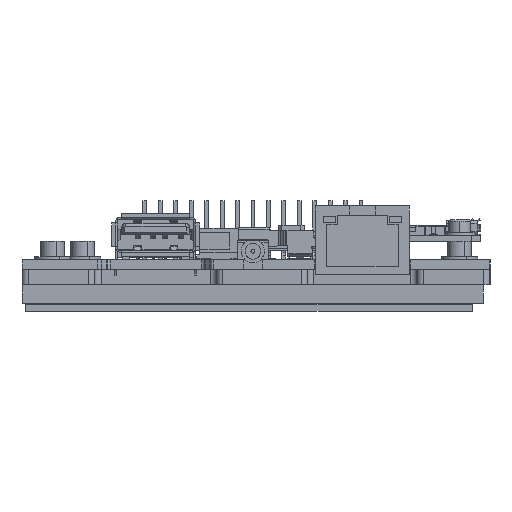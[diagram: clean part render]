
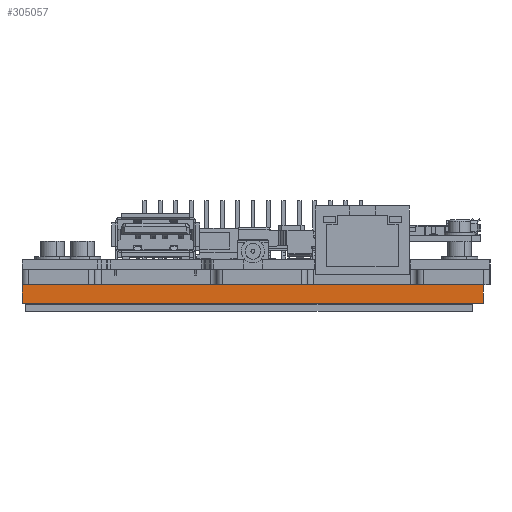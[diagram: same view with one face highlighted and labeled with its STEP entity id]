
A CAD part, left-side view. The second image highlights one B-rep face of the part: STEP entity #305057.
In plain terms, the highlighted planar face has unit normal (-1, 0, 0) as drawn and (1, 0, 0) by its records, which use the part's own axes.
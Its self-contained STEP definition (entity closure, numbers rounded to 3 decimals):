
#12948 = DIRECTION ( 'NONE',  ( -1., 0., 0. ) ) ;
#33902 = CARTESIAN_POINT ( 'NONE',  ( 60.5, -37.925, 0. ) ) ;
#47392 = DIRECTION ( 'NONE',  ( 0., 0., -1. ) ) ;
#48697 = VERTEX_POINT ( 'NONE', #96250 ) ;
#57204 = EDGE_LOOP ( 'NONE', ( #350264, #177718, #279579, #155366 ) ) ;
#68690 = PLANE ( 'NONE',  #344266 ) ;
#72872 = CARTESIAN_POINT ( 'NONE',  ( 60.5, 37.925, 3.1 ) ) ;
#73082 = EDGE_CURVE ( 'NONE', #48697, #271026, #312347, .T. ) ;
#74092 = EDGE_CURVE ( 'NONE', #329331, #303008, #102762, .T. ) ;
#86542 = FACE_OUTER_BOUND ( 'NONE', #57204, .T. ) ;
#96250 = CARTESIAN_POINT ( 'NONE',  ( 60.5, -37.925, 3.1 ) ) ;
#102762 = LINE ( 'NONE', #321404, #320235 ) ;
#129846 = DIRECTION ( 'NONE',  ( 0., 1., 0. ) ) ;
#155366 = ORIENTED_EDGE ( 'NONE', *, *, #220141, .T. ) ;
#170390 = VECTOR ( 'NONE', #129846, 1000. ) ;
#173369 = LINE ( 'NONE', #217192, #324314 ) ;
#177718 = ORIENTED_EDGE ( 'NONE', *, *, #230494, .F. ) ;
#182800 = CARTESIAN_POINT ( 'NONE',  ( 60.5, 37.925, 3.1 ) ) ;
#187243 = DIRECTION ( 'NONE',  ( 0., 0., -1. ) ) ;
#211293 = DIRECTION ( 'NONE',  ( 0., -1., 0. ) ) ;
#217192 = CARTESIAN_POINT ( 'NONE',  ( 60.5, -37.925, 3.1 ) ) ;
#220141 = EDGE_CURVE ( 'NONE', #48697, #329331, #173369, .T. ) ;
#230494 = EDGE_CURVE ( 'NONE', #271026, #303008, #334328, .T. ) ;
#241050 = VECTOR ( 'NONE', #187243, 1000. ) ;
#243131 = CARTESIAN_POINT ( 'NONE',  ( 60.5, 37.925, 3.1 ) ) ;
#264489 = CARTESIAN_POINT ( 'NONE',  ( 60.5, 37.925, 3.1 ) ) ;
#265596 = DIRECTION ( 'NONE',  ( 0., 1., 0. ) ) ;
#271026 = VERTEX_POINT ( 'NONE', #264489 ) ;
#279579 = ORIENTED_EDGE ( 'NONE', *, *, #73082, .F. ) ;
#303008 = VERTEX_POINT ( 'NONE', #348628 ) ;
#305057 = ADVANCED_FACE ( 'NONE', ( #86542 ), #68690, .F. ) ;
#312347 = LINE ( 'NONE', #72872, #170390 ) ;
#320235 = VECTOR ( 'NONE', #265596, 1000. ) ;
#321404 = CARTESIAN_POINT ( 'NONE',  ( 60.5, 37.925, 0. ) ) ;
#324314 = VECTOR ( 'NONE', #47392, 1000. ) ;
#329331 = VERTEX_POINT ( 'NONE', #33902 ) ;
#334328 = LINE ( 'NONE', #243131, #241050 ) ;
#344266 = AXIS2_PLACEMENT_3D ( 'NONE', #182800, #12948, #211293 ) ;
#348628 = CARTESIAN_POINT ( 'NONE',  ( 60.5, 37.925, 0. ) ) ;
#350264 = ORIENTED_EDGE ( 'NONE', *, *, #74092, .T. ) ;
